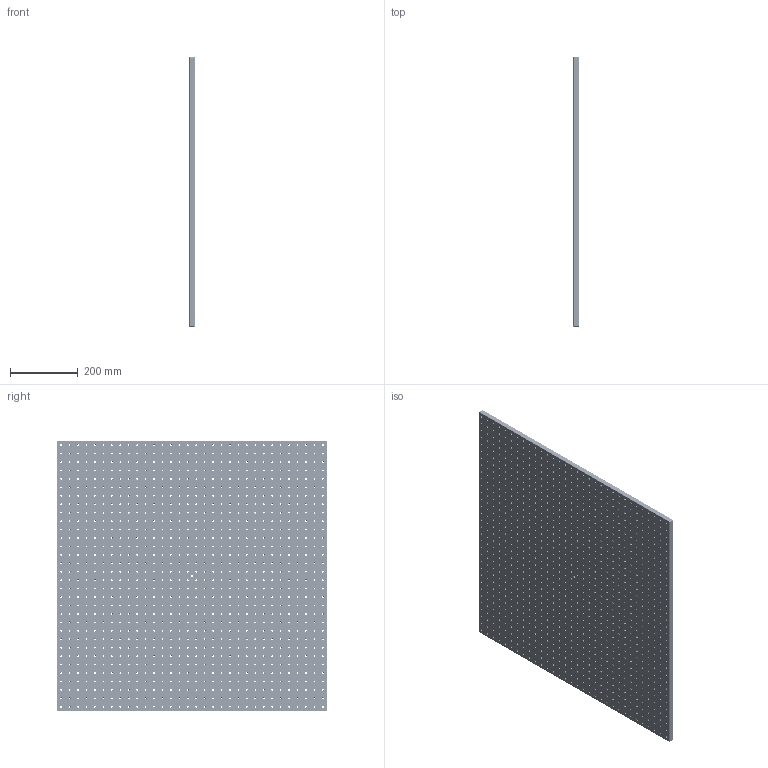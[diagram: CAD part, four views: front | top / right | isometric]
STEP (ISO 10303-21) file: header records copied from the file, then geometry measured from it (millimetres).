
FILE_DESCRIPTION(/* description */ (''),/* implementation_level */ '2;1');
FILE_NAME(/* name */ 'U:\KONSTRUKTORIAI\DOKUMENTACIJA\1\1B-ALE\1B-ALE-80-80-015\step\1B-ALE-80-80-015.stp',/* time_stamp */ '2016-06-15T08:26:01+03:00',/* author */ ('dsgn31'),/* organization */ (''),/* preprocessor_version */ 'ST-DEVELOPER v15.2',/* originating_system */ 'Autodesk Inventor 2014',/* authorisation */ '');
FILE_SCHEMA (('AUTOMOTIVE_DESIGN { 1 0 10303 214 3 1 1 }'));
Products named in the file (1): 1B-ALE-80-80-015.01
Bounding box: 15 x 800 x 800 mm (x, y, z)
Volume: 9299731.1 mm3; surface area: 1518247.5 mm2
Topology: 1 solids, 1 shells, 3093 faces, 8230 edges, 5144 vertices
Faces by surface type: cone 2040, cylinder 1030, plane 23
Full cylindrical faces by diameter (mm): 4.917 x1020, 6.5 x5, 11 x5
Entity records: 76351 total; most frequent: DIRECTION 14428, CARTESIAN_POINT 11358, ORIENTED_EDGE 8280, EDGE_LOOP 8218, AXIS2_PLACEMENT_3D 7194, FACE_BOUND 5127, EDGE_CURVE 4140, VERTEX_POINT 4124
